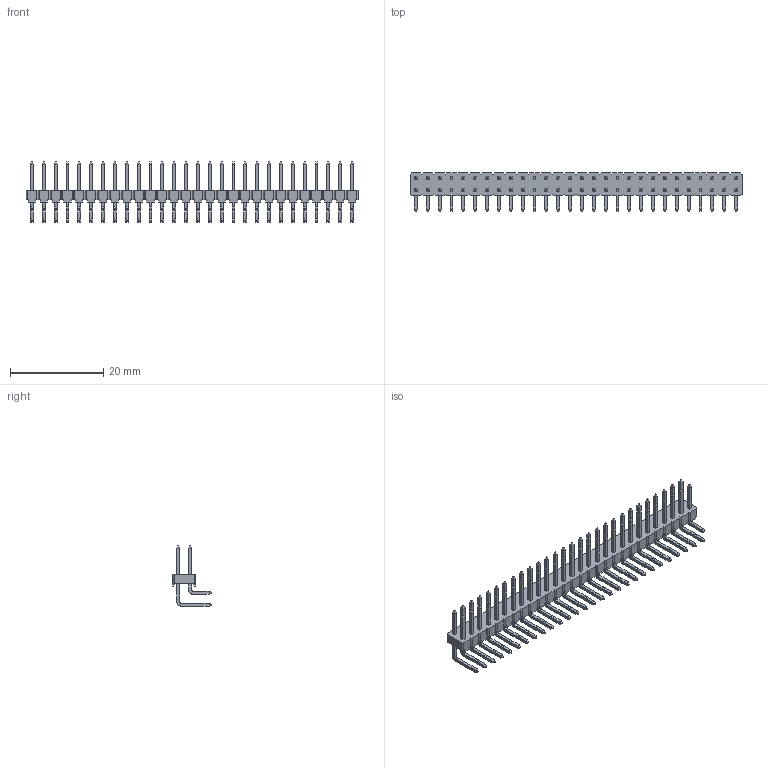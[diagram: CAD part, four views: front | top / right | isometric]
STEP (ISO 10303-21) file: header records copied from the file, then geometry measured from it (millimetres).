
FILE_DESCRIPTION(/* description */ (''),/* implementation_level */ '2;1');
FILE_NAME(/* name */ '961256-5604-XX',/* time_stamp */ '2007-06-18T13:51:55+02:00',/* author */ (''),/* organization */ (''),/* preprocessor_version */ 'ST-DEVELOPER v9',/* originating_system */ 'UGS - NX 4.0',/* authorisation */ '');
FILE_SCHEMA (('AUTOMOTIVE_DESIGN { 1 0 10303 214 1 1 1 1 }'));
Length unit declared in the file: millimetre
Products named in the file (1): 961256-5604-XX
Bounding box: 71.12 x 8.3 x 12.86 mm (x, y, z)
Volume: 1045.5 mm3; surface area: 3151.9 mm2
Topology: 1 solids, 1 shells, 1686 faces, 4268 edges, 2696 vertices
Faces by surface type: plane 1574, cylinder 112
Entity records: 49236 total; most frequent: CARTESIAN_POINT 8651, ORIENTED_EDGE 8536, DIRECTION 7866, EDGE_CURVE 4268, LINE 4044, VECTOR 4044, VERTEX_POINT 2696, AXIS2_PLACEMENT_3D 1911
